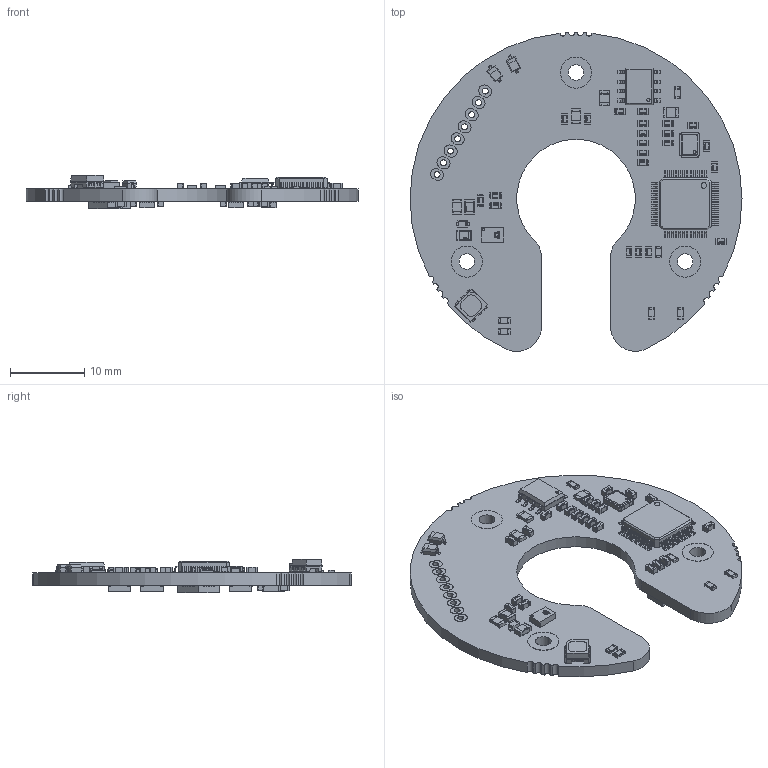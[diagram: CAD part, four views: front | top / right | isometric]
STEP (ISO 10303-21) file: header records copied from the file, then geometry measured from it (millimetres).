
FILE_DESCRIPTION (( 'STEP AP203' ), '1' );
FILE_NAME ('Orbis_module_fi16_MT_v02.STEP', '2021-04-29T13:26:17', ( '' ), ( '' ), 'SwSTEP 2.0', 'SolidWorks 2020', '' );
FILE_SCHEMA (( 'CONFIG_CONTROL_DESIGN' ));
Length unit declared in the file: millimetre
Products named in the file (1): Orbis_module_fi16_MT_v02
Bounding box: 44.8 x 43.02 x 4.47 mm (x, y, z)
Volume: 2213.5 mm3; surface area: 3841.5 mm2
Topology: 210 solids, 210 shells, 7060 faces, 18006 edges, 11524 vertices
Faces by surface type: plane 3392, bspline 2437, cylinder 1223, torus 8
Entity records: 338053 total; most frequent: CARTESIAN_POINT 184780, ORIENTED_EDGE 35500, DIRECTION 23932, EDGE_CURVE 17750, VERTEX_POINT 11524, VECTOR 10912, LINE 10912, EDGE_LOOP 7508
